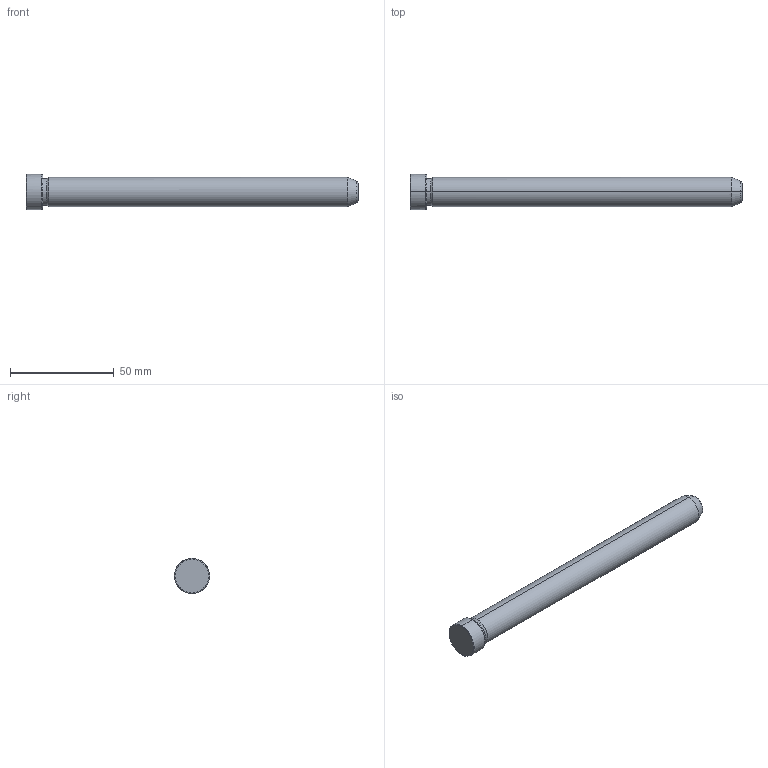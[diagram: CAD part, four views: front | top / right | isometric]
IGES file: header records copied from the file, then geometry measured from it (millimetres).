
Start section: START RECORD GO HERE.
Global section: file name: 549-14X160.igs; native system: DASSAULT SYSTEMES CATIA V5 R20 - www.3ds.com; preprocessor: CATIA Version 5 Release 20 ; author: Utente; organization: NB04-ASUS; date: 20211211.102415; units: millimetre
Bounding box: 160 x 17 x 17 mm (x, y, z)
Surface area: 7468.5 mm2 (no closed solid volume)
Topology: 0 solids, 0 shells, 19 faces, 112 edges, 112 vertices
Faces by surface type: revolution 16, plane 3
